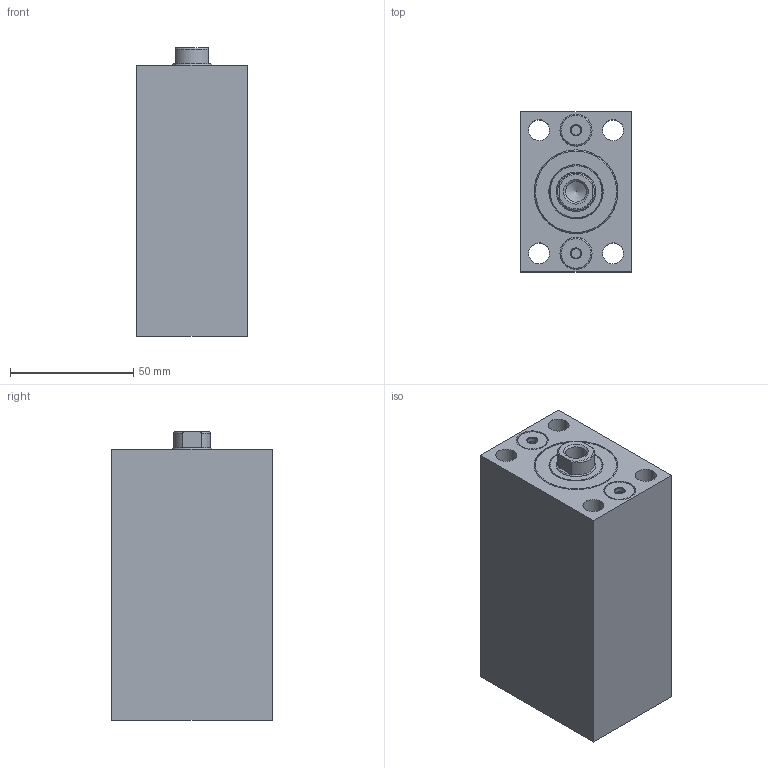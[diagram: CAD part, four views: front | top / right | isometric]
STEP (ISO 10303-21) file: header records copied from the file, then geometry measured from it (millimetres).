
FILE_DESCRIPTION( ( 'STEP AP203' ), '1' );
FILE_NAME( 'C:/Users/SAYKO.ltd/Desktop/SBZ100/07/SBZ100-25/SBZ100.25__FORM_07_STROKE_45__H2_44_POS_0_.stp', ' ', ( ' ' ), ( ' ' ), 'PSStep 15.0.47', 'PARTsolutions', ' ' );
FILE_SCHEMA( ( 'CONFIG_CONTROL_DESIGN' ) );
Length unit declared in the file: millimetre
Products named in the file (5): SBZ100.25  FORM=07 STROKE=45 (H2=44 POS=0); HI_SBZ10025  FORM=07 STROKE=45 H2=44 -C; HI_SBZ10025  FORM=07 STROKE=45-R; HI_SBZ100.25-C; HI_SBZ100.25-S
Assembly tree (4 placements, depth 2):
  SBZ100.25  FORM=07 STROKE=45 (H2=44 POS=0)
    HI_SBZ10025  FORM=07 STROKE=45 H2=44 -C
    HI_SBZ10025  FORM=07 STROKE=45-R
    HI_SBZ100.25-C
    HI_SBZ100.25-S
Bounding box: 45 x 65 x 117 mm (x, y, z)
Volume: 279240.6 mm3; surface area: 65930.5 mm2
Topology: 4 solids, 4 shells, 74 faces, 136 edges, 87 vertices
Faces by surface type: plane 33, cylinder 28, cone 10, torus 3
Full cylindrical faces by diameter (mm): 4 x4, 8.376 x1, 8.5 x4, 13 x2, 13.6 x4, 16 x4, 22 x1, 24 x2, 25 x2, 34 x2
Entity records: 3855 total; most frequent: CARTESIAN_POINT 2525, ORIENTED_EDGE 188, DIRECTION 178, EDGE_LOOP 140, FACE_OUTER_BOUND 101, EDGE_CURVE 94, VERTEX_POINT 83, AXIS2_PLACEMENT_3D 81
